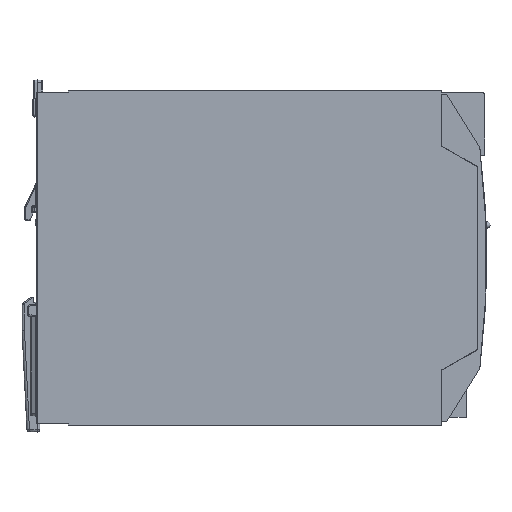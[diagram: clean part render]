
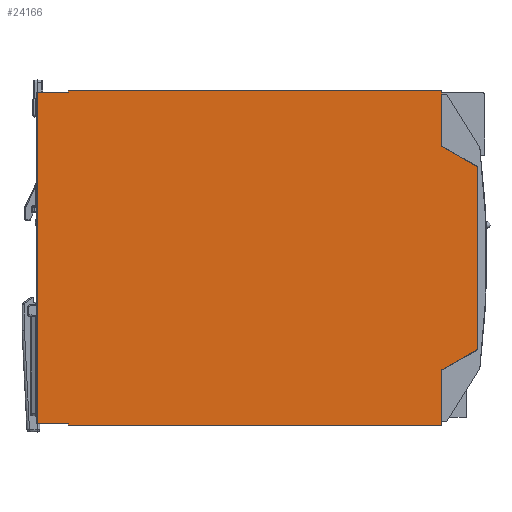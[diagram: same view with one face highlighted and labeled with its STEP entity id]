
A CAD part, left-side view. The second image highlights one B-rep face of the part: STEP entity #24166.
In plain terms, the highlighted planar face has unit normal (-1, 0, 0).
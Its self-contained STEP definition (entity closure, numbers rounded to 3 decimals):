
#855=LINE('',#35695,#2973);
#864=LINE('',#35722,#2982);
#866=LINE('',#35727,#2984);
#867=LINE('',#35729,#2985);
#868=LINE('',#35730,#2986);
#869=LINE('',#35732,#2987);
#870=LINE('',#35734,#2988);
#871=LINE('',#35736,#2989);
#872=LINE('',#35738,#2990);
#873=LINE('',#35740,#2991);
#874=LINE('',#35742,#2992);
#875=LINE('',#35744,#2993);
#876=LINE('',#35746,#2994);
#877=LINE('',#35748,#2995);
#878=LINE('',#35749,#2996);
#879=LINE('',#35750,#2997);
#2973=VECTOR('',#28421,71.499);
#2982=VECTOR('',#28440,146.297);
#2984=VECTOR('',#28444,0.5);
#2985=VECTOR('',#28445,0.289);
#2986=VECTOR('',#28446,21.712);
#2987=VECTOR('',#28447,0.55);
#2988=VECTOR('',#28448,12.173);
#2989=VECTOR('',#28449,130.);
#2990=VECTOR('',#28450,12.173);
#2991=VECTOR('',#28451,0.55);
#2992=VECTOR('',#28452,146.297);
#2993=VECTOR('',#28453,21.712);
#2994=VECTOR('',#28454,0.289);
#2995=VECTOR('',#28455,0.5);
#2996=VECTOR('',#28456,15.889);
#2997=VECTOR('',#28457,15.889);
#5008=PLANE('',#25620);
#6513=FACE_OUTER_BOUND('',#7930,.T.);
#7930=EDGE_LOOP('',(#15494,#15495,#15496,#15497,#15498,#15499,#15500,#15501,
#15502,#15503,#15504,#15505,#15506,#15507,#15508,#15509,#15510,#15511));
#9553=VERTEX_POINT('',#35692);
#9554=VERTEX_POINT('',#35694);
#9566=VERTEX_POINT('',#35719);
#9567=VERTEX_POINT('',#35721);
#9568=VERTEX_POINT('',#35725);
#9569=VERTEX_POINT('',#35726);
#9570=VERTEX_POINT('',#35728);
#9571=VERTEX_POINT('',#35731);
#9572=VERTEX_POINT('',#35733);
#9573=VERTEX_POINT('',#35735);
#9574=VERTEX_POINT('',#35737);
#9575=VERTEX_POINT('',#35739);
#9576=VERTEX_POINT('',#35741);
#9577=VERTEX_POINT('',#35743);
#9578=VERTEX_POINT('',#35745);
#9579=VERTEX_POINT('',#35747);
#11779=EDGE_CURVE('',#9554,#9553,#855,.T.);
#11792=EDGE_CURVE('',#9567,#9566,#864,.T.);
#11794=EDGE_CURVE('',#9568,#9569,#866,.T.);
#11795=EDGE_CURVE('',#9568,#9570,#867,.T.);
#11796=EDGE_CURVE('',#9570,#9567,#868,.T.);
#11797=EDGE_CURVE('',#9566,#9571,#869,.T.);
#11798=EDGE_CURVE('',#9572,#9571,#870,.T.);
#11799=EDGE_CURVE('',#9573,#9572,#871,.T.);
#11800=EDGE_CURVE('',#9574,#9573,#872,.T.);
#11801=EDGE_CURVE('',#9574,#9575,#873,.T.);
#11802=EDGE_CURVE('',#9575,#9576,#874,.T.);
#11803=EDGE_CURVE('',#9576,#9577,#875,.T.);
#11804=EDGE_CURVE('',#9577,#9578,#876,.T.);
#11805=EDGE_CURVE('',#9578,#9579,#877,.T.);
#11806=EDGE_CURVE('',#9554,#9578,#878,.T.);
#11807=EDGE_CURVE('',#9553,#9568,#879,.T.);
#15494=ORIENTED_EDGE('',*,*,#11794,.F.);
#15495=ORIENTED_EDGE('',*,*,#11795,.T.);
#15496=ORIENTED_EDGE('',*,*,#11796,.T.);
#15497=ORIENTED_EDGE('',*,*,#11792,.T.);
#15498=ORIENTED_EDGE('',*,*,#11797,.T.);
#15499=ORIENTED_EDGE('',*,*,#11798,.F.);
#15500=ORIENTED_EDGE('',*,*,#11799,.F.);
#15501=ORIENTED_EDGE('',*,*,#11800,.F.);
#15502=ORIENTED_EDGE('',*,*,#11801,.T.);
#15503=ORIENTED_EDGE('',*,*,#11802,.T.);
#15504=ORIENTED_EDGE('',*,*,#11803,.T.);
#15505=ORIENTED_EDGE('',*,*,#11804,.T.);
#15506=ORIENTED_EDGE('',*,*,#11805,.T.);
#15507=ORIENTED_EDGE('',*,*,#11805,.F.);
#15508=ORIENTED_EDGE('',*,*,#11806,.F.);
#15509=ORIENTED_EDGE('',*,*,#11779,.T.);
#15510=ORIENTED_EDGE('',*,*,#11807,.T.);
#15511=ORIENTED_EDGE('',*,*,#11794,.T.);
#24166=ADVANCED_FACE('',(#6513),#5008,.F.);
#25620=AXIS2_PLACEMENT_3D('',#35724,#28442,#28443);
#28421=DIRECTION('',(0.,0.,1.));
#28440=DIRECTION('',(0.,1.,0.));
#28442=DIRECTION('center_axis',(1.,0.,0.));
#28443=DIRECTION('ref_axis',(0.,0.,1.));
#28444=DIRECTION('',(0.,0.5,-0.866));
#28445=DIRECTION('',(0.,0.866,0.5));
#28446=DIRECTION('',(0.,0.,1.));
#28447=DIRECTION('',(0.,0.,-1.));
#28448=DIRECTION('',(0.,-1.,0.));
#28449=DIRECTION('',(0.,0.,1.));
#28450=DIRECTION('',(0.,1.,0.));
#28451=DIRECTION('',(0.,0.,-1.));
#28452=DIRECTION('',(0.,-1.,0.));
#28453=DIRECTION('',(0.,0.,1.));
#28454=DIRECTION('',(0.,-0.866,0.5));
#28455=DIRECTION('',(0.,0.5,0.866));
#28456=DIRECTION('',(0.,0.866,-0.5));
#28457=DIRECTION('',(0.,0.866,0.5));
#35692=CARTESIAN_POINT('',(-58.525,-92.491,41.605));
#35694=CARTESIAN_POINT('',(-58.525,-92.491,-29.894));
#35695=CARTESIAN_POINT('',(-58.525,-92.491,-12.12));
#35719=CARTESIAN_POINT('',(-58.525,67.816,71.406));
#35721=CARTESIAN_POINT('',(-58.525,-78.481,71.406));
#35722=CARTESIAN_POINT('',(-58.525,-91.311,71.406));
#35724=CARTESIAN_POINT('Origin',(-58.525,-89.384,5.856));
#35725=CARTESIAN_POINT('',(-58.525,-78.731,49.55));
#35726=CARTESIAN_POINT('',(-58.525,-78.481,49.117));
#35727=CARTESIAN_POINT('',(-58.525,-78.676,49.454));
#35728=CARTESIAN_POINT('',(-58.525,-78.481,49.694));
#35729=CARTESIAN_POINT('',(-58.525,-92.186,41.781));
#35730=CARTESIAN_POINT('',(-58.525,-78.481,38.631));
#35731=CARTESIAN_POINT('',(-58.525,67.816,70.856));
#35732=CARTESIAN_POINT('',(-58.525,67.816,71.268));
#35733=CARTESIAN_POINT('',(-58.525,79.989,70.856));
#35734=CARTESIAN_POINT('',(-58.525,52.489,70.856));
#35735=CARTESIAN_POINT('',(-58.525,79.989,-59.144));
#35736=CARTESIAN_POINT('',(-58.525,79.989,5.856));
#35737=CARTESIAN_POINT('',(-58.525,67.816,-59.144));
#35738=CARTESIAN_POINT('',(-58.525,-91.711,-59.144));
#35739=CARTESIAN_POINT('',(-58.525,67.816,-59.694));
#35740=CARTESIAN_POINT('',(-58.525,67.816,-59.282));
#35741=CARTESIAN_POINT('',(-58.525,-78.481,-59.694));
#35742=CARTESIAN_POINT('',(-58.525,-93.573,-59.694));
#35743=CARTESIAN_POINT('',(-58.525,-78.481,-37.983));
#35744=CARTESIAN_POINT('',(-58.525,-78.481,38.631));
#35745=CARTESIAN_POINT('',(-58.525,-78.731,-37.838));
#35746=CARTESIAN_POINT('',(-58.525,-92.061,-30.142));
#35747=CARTESIAN_POINT('',(-58.525,-78.481,-37.405));
#35748=CARTESIAN_POINT('',(-58.525,-78.676,-37.743));
#35749=CARTESIAN_POINT('',(-58.525,-76.772,-38.969));
#35750=CARTESIAN_POINT('',(-58.525,-76.772,50.681));
